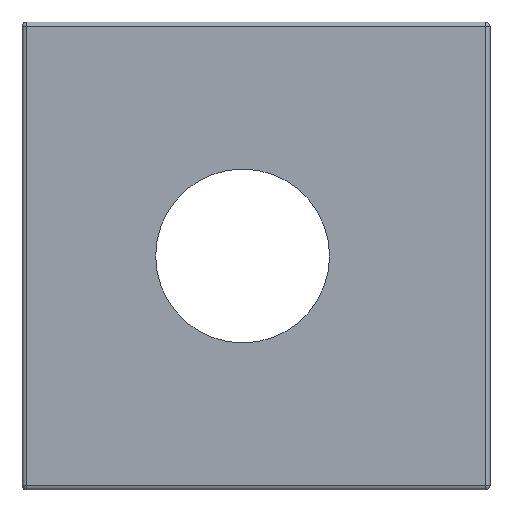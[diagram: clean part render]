
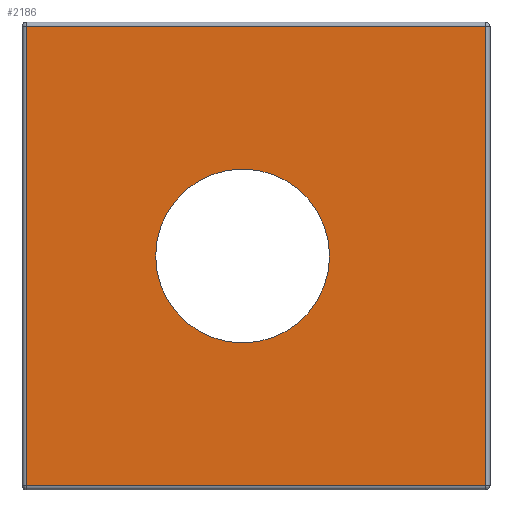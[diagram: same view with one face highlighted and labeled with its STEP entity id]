
A CAD part, left-side view. The second image highlights one B-rep face of the part: STEP entity #2186.
In plain terms, the highlighted planar face has unit normal (-1, 0, 0).
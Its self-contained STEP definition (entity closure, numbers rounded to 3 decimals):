
#8 = DIRECTION ( 'NONE',  ( 0., 0., 1. ) ) ;
#177 = VECTOR ( 'NONE', #2749, 1000. ) ;
#420 = EDGE_LOOP ( 'NONE', ( #2148, #4085 ) ) ;
#490 = DIRECTION ( 'NONE',  ( 1., 0., 0. ) ) ;
#664 = CARTESIAN_POINT ( 'NONE',  ( 2199.177, -660.494, -20.8 ) ) ;
#772 = LINE ( 'NONE', #1239, #3052 ) ;
#785 = VERTEX_POINT ( 'NONE', #3551 ) ;
#789 = CARTESIAN_POINT ( 'NONE',  ( 2199.177, -660.494, -21. ) ) ;
#842 = ORIENTED_EDGE ( 'NONE', *, *, #1928, .F. ) ;
#887 = CARTESIAN_POINT ( 'NONE',  ( 2199.177, -681.294, -20.8 ) ) ;
#921 = DIRECTION ( 'NONE',  ( 0., 0., 1. ) ) ;
#1156 = DIRECTION ( 'NONE',  ( 1., 0., 0. ) ) ;
#1239 = CARTESIAN_POINT ( 'NONE',  ( 2199.177, -681.294, -0.2 ) ) ;
#1467 = VECTOR ( 'NONE', #4554, 1000. ) ;
#1508 = EDGE_CURVE ( 'NONE', #1729, #1931, #772, .T. ) ;
#1534 = AXIS2_PLACEMENT_3D ( 'NONE', #1733, #2470, #4548 ) ;
#1698 = AXIS2_PLACEMENT_3D ( 'NONE', #3729, #490, #921 ) ;
#1729 = VERTEX_POINT ( 'NONE', #4687 ) ;
#1733 = CARTESIAN_POINT ( 'NONE',  ( 2199.177, -670.194, -10.5 ) ) ;
#1780 = FACE_BOUND ( 'NONE', #420, .T. ) ;
#1806 = LINE ( 'NONE', #4763, #177 ) ;
#1850 = FACE_OUTER_BOUND ( 'NONE', #2131, .T. ) ;
#1908 = CIRCLE ( 'NONE', #1534, 3.9 ) ;
#1928 = EDGE_CURVE ( 'NONE', #2144, #2904, #2228, .T. ) ;
#1931 = VERTEX_POINT ( 'NONE', #3361 ) ;
#1935 = CARTESIAN_POINT ( 'NONE',  ( 2199.177, -681.094, -20.8 ) ) ;
#2131 = EDGE_LOOP ( 'NONE', ( #3527, #842, #4593, #4205 ) ) ;
#2144 = VERTEX_POINT ( 'NONE', #1935 ) ;
#2148 = ORIENTED_EDGE ( 'NONE', *, *, #2487, .T. ) ;
#2186 = ADVANCED_FACE ( 'NONE', ( #1780, #1850 ), #5096, .F. ) ;
#2228 = LINE ( 'NONE', #887, #1467 ) ;
#2371 = EDGE_CURVE ( 'NONE', #785, #2878, #1908, .T. ) ;
#2470 = DIRECTION ( 'NONE',  ( 1., 0., 0. ) ) ;
#2487 = EDGE_CURVE ( 'NONE', #2878, #785, #4186, .T. ) ;
#2705 = DIRECTION ( 'NONE',  ( 0., 0., -1. ) ) ;
#2709 = CARTESIAN_POINT ( 'NONE',  ( 2199.177, -670.194, -6.6 ) ) ;
#2749 = DIRECTION ( 'NONE',  ( 0., 0., -1. ) ) ;
#2796 = LINE ( 'NONE', #789, #4183 ) ;
#2878 = VERTEX_POINT ( 'NONE', #2709 ) ;
#2904 = VERTEX_POINT ( 'NONE', #664 ) ;
#2924 = DIRECTION ( 'NONE',  ( 0., -1., 0. ) ) ;
#3031 = EDGE_CURVE ( 'NONE', #1931, #2144, #1806, .T. ) ;
#3052 = VECTOR ( 'NONE', #2924, 1000. ) ;
#3103 = CARTESIAN_POINT ( 'NONE',  ( 2199.177, -681.294, -21. ) ) ;
#3361 = CARTESIAN_POINT ( 'NONE',  ( 2199.177, -681.094, -0.2 ) ) ;
#3527 = ORIENTED_EDGE ( 'NONE', *, *, #4221, .F. ) ;
#3533 = AXIS2_PLACEMENT_3D ( 'NONE', #3103, #1156, #2705 ) ;
#3551 = CARTESIAN_POINT ( 'NONE',  ( 2199.177, -670.194, -14.4 ) ) ;
#3729 = CARTESIAN_POINT ( 'NONE',  ( 2199.177, -670.194, -10.5 ) ) ;
#4085 = ORIENTED_EDGE ( 'NONE', *, *, #2371, .T. ) ;
#4183 = VECTOR ( 'NONE', #8, 1000. ) ;
#4186 = CIRCLE ( 'NONE', #1698, 3.9 ) ;
#4205 = ORIENTED_EDGE ( 'NONE', *, *, #1508, .F. ) ;
#4221 = EDGE_CURVE ( 'NONE', #2904, #1729, #2796, .T. ) ;
#4548 = DIRECTION ( 'NONE',  ( 0., 0., 1. ) ) ;
#4554 = DIRECTION ( 'NONE',  ( 0., 1., 0. ) ) ;
#4593 = ORIENTED_EDGE ( 'NONE', *, *, #3031, .F. ) ;
#4687 = CARTESIAN_POINT ( 'NONE',  ( 2199.177, -660.494, -0.2 ) ) ;
#4763 = CARTESIAN_POINT ( 'NONE',  ( 2199.177, -681.094, -21. ) ) ;
#5096 = PLANE ( 'NONE',  #3533 ) ;
